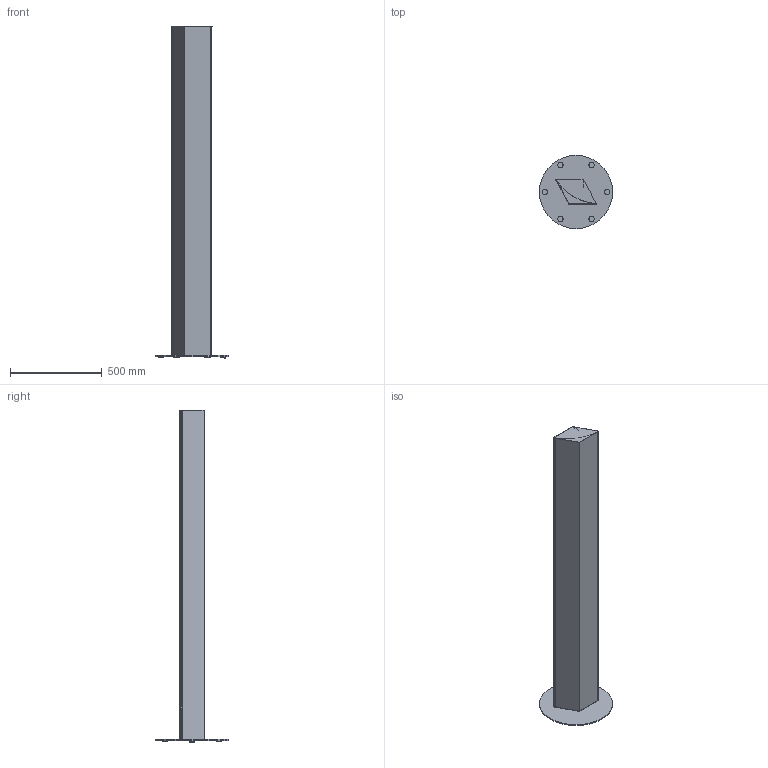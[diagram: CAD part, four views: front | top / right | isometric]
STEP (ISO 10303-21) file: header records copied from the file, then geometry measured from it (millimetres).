
FILE_DESCRIPTION(/* description */ (''),/* implementation_level */ '2;1');
FILE_NAME(/* name */ 'STRIPE FLOOR STAND ALONE 180X15.stp',/* time_stamp */ '2025-03-20T08:44:21+01:00',/* author */ ('marco.prandina'),/* organization */ (''),/* preprocessor_version */ 'ST-DEVELOPER v20',/* originating_system */ 'Autodesk Inventor 2025',/* authorisation */ '');
FILE_SCHEMA (('AUTOMOTIVE_DESIGN { 1 0 10303 214 3 1 1 }'));
Length unit declared in the file: millimetre
Products named in the file (15): 503C125-B; 503C024; 503C106-B; 503C022-B; 503C022_001-B; 503C022_002-B; 503C022_003; 503C022_005-B; 503C022_004; INSERTO FILETTATO ESAGONALE A TESTA RIDOTTA- TFRE M6; 503C023-B; 0503SC161; 503C019; 503C019_001; X0051-012
Assembly tree (21 placements, depth 4):
  503C125-B
    503C024
    503C106-B
      503C022-B
        503C022_001-B
        503C022_002-B
        503C022_003
        503C022_005-B
        503C022_004
        INSERTO FILETTATO ESAGONALE A TESTA RIDOTTA- TFRE M6  x2
      503C023-B
    0503SC161  x6
    503C019
      503C019_001
      X0051-012  x2
Bounding box: 400 x 400 x 1814 mm (x, y, z)
Volume: 1977427.6 mm3; surface area: 3280175.4 mm2
Topology: 18 solids, 32 shells, 828 faces, 2150 edges, 1394 vertices
Faces by surface type: plane 662, cylinder 116, cone 48, torus 2
Full cylindrical faces by diameter (mm): 0.059 x2, 0.077 x2, 4 x4, 4.5 x2, 4.917 x2, 5.9 x2, 6.2 x2, 8.98 x2, 10 x5, 30 x6, 400 x1
Entity records: 15959 total; most frequent: CARTESIAN_POINT 2719, ORIENTED_EDGE 2594, DIRECTION 2565, EDGE_CURVE 1297, LINE 1059, VECTOR 1059, VERTEX_POINT 835, AXIS2_PLACEMENT_3D 753
